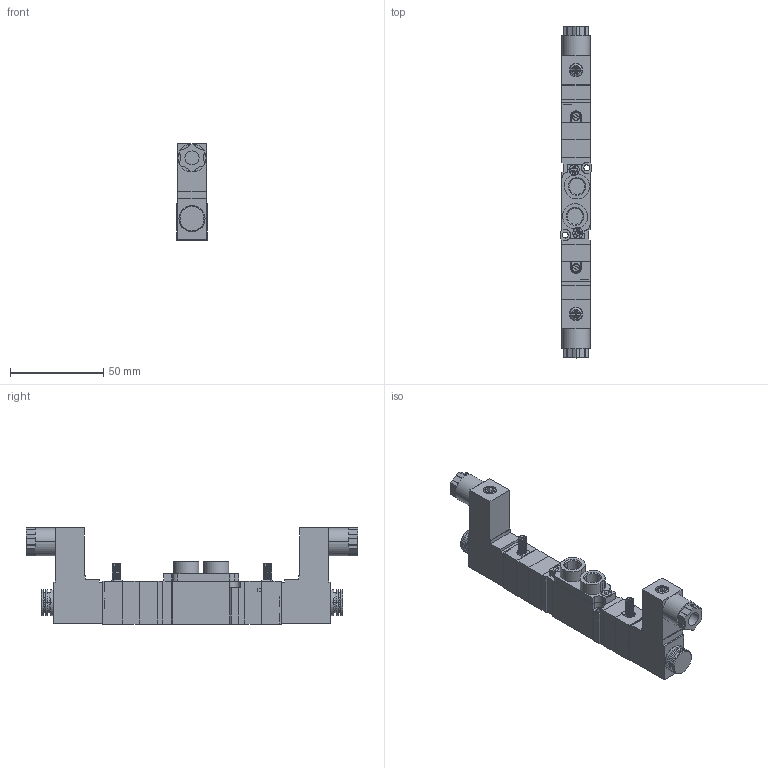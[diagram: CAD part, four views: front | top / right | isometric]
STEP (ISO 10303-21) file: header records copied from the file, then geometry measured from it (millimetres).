
FILE_DESCRIPTION(('STEP AP214'),'1');
FILE_NAME('V20E160V2.stp','2020-09-08T14:40:52',(' '),(' '),'Spatial InterOp 3D',' ',' ');
FILE_SCHEMA(('automotive_design'));
Length unit declared in the file: millimetre
Products named in the file (10): V20E160V2; V20-7; V20-6; V20-5; V20-1; V20-4; V20-2; V20-3; V20-5.2
Assembly tree (10 placements, depth 2):
  V20E160V2
    V20-7
    V20-6
    V20-5
    V20-1
    V20-4
    V20-2  x2
    V20-3
    V20-4
    V20-5.2
Bounding box: 16.2 x 177.7 x 51.5 mm (x, y, z)
Volume: 71989.5 mm3; surface area: 35528 mm2
Topology: 22 solids, 22 shells, 1182 faces, 3082 edges, 1990 vertices
Faces by surface type: plane 696, cylinder 358, cone 84, torus 40, bspline 4
Entity records: 44206 total; most frequent: CARTESIAN_POINT 14130, ORIENTED_EDGE 4736, DIRECTION 4653, EDGE_CURVE 2368, AXIS2_PLACEMENT_3D 1584, VERTEX_POINT 1530, LINE 1485, VECTOR 1485
